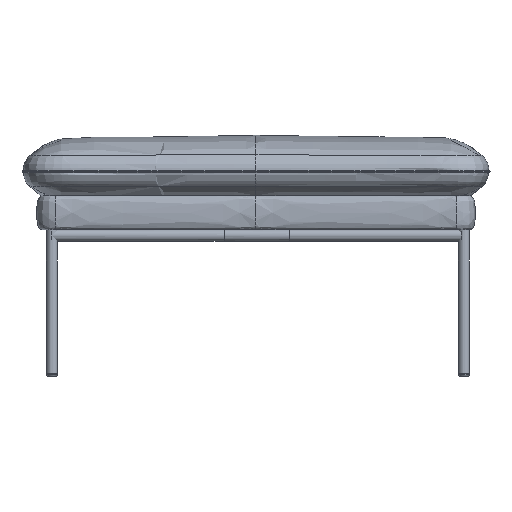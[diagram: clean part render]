
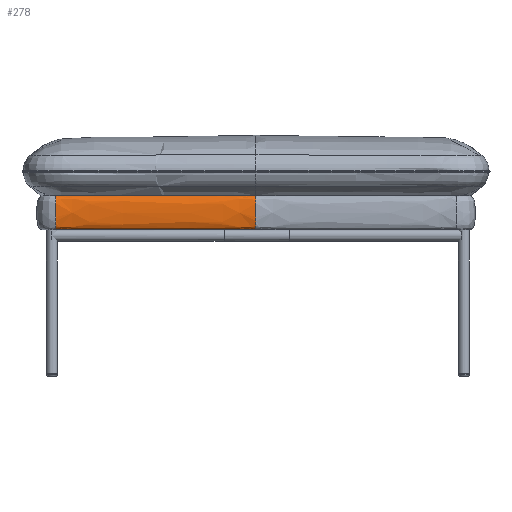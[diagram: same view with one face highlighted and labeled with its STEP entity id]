
A CAD part, front view. The second image highlights one B-rep face of the part: STEP entity #278.
In plain terms, the highlighted free-form (B-spline) face has degree [3, 3] with [4, 5] control points.
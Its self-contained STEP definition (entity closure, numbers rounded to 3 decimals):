
#278=ADVANCED_FACE('',(#406),#1588,.T.);
#406=FACE_OUTER_BOUND('',#534,.T.);
#534=EDGE_LOOP('',(#673,#674,#675,#676));
#673=ORIENTED_EDGE('',*,*,#1122,.F.);
#674=ORIENTED_EDGE('',*,*,#1112,.F.);
#675=ORIENTED_EDGE('',*,*,#1116,.F.);
#676=ORIENTED_EDGE('',*,*,#1123,.T.);
#1112=EDGE_CURVE('',#1374,#1375,#1633,.T.);
#1116=EDGE_CURVE('',#1378,#1374,#1637,.T.);
#1122=EDGE_CURVE('',#1375,#1380,#1643,.T.);
#1123=EDGE_CURVE('',#1378,#1380,#1644,.T.);
#1374=VERTEX_POINT('',#2472);
#1375=VERTEX_POINT('',#2473);
#1378=VERTEX_POINT('',#2476);
#1380=VERTEX_POINT('',#2478);
#1588=B_SPLINE_SURFACE_WITH_KNOTS('',3,3,((#2200,#2201,#2202,#2203,#2204),
(#2205,#2206,#2207,#2208,#2209),(#2210,#2211,#2212,#2213,#2214),(#2215,
#2216,#2217,#2218,#2219)),.UNSPECIFIED.,.F.,.F.,.F.,(4,4),(4,1,4),(0.,
1742.),(0.,40.,80.),.UNSPECIFIED.);
#1633=B_SPLINE_CURVE_WITH_KNOTS('',3,(#2504,#2505,#2506,#2507,#2508),
 .UNSPECIFIED.,.F.,.F.,(4,1,4),(0.,40.,80.),.UNSPECIFIED.);
#1637=B_SPLINE_CURVE_WITH_KNOTS('',3,(#2523,#2524,#2525,#2526),
 .UNSPECIFIED.,.F.,.F.,(4,4),(0.,354.664),.UNSPECIFIED.);
#1643=B_SPLINE_CURVE_WITH_KNOTS('',3,(#2541,#2542,#2543,#2544),
 .UNSPECIFIED.,.F.,.F.,(4,4),(0.,354.664),.UNSPECIFIED.);
#1644=B_SPLINE_CURVE_WITH_KNOTS('',3,(#2545,#2546,#2547,#2548,#2549),
 .UNSPECIFIED.,.F.,.F.,(4,1,4),(0.,41.222,82.443),
 .UNSPECIFIED.);
#2200=CARTESIAN_POINT('',(7274.917,-713.07,260.));
#2201=CARTESIAN_POINT('',(7274.917,-724.292,260.));
#2202=CARTESIAN_POINT('',(7274.917,-724.292,290.));
#2203=CARTESIAN_POINT('',(7274.917,-724.292,320.));
#2204=CARTESIAN_POINT('',(7274.917,-713.07,320.));
#2205=CARTESIAN_POINT('',(7926.526,-713.07,260.));
#2206=CARTESIAN_POINT('',(7926.526,-724.292,260.));
#2207=CARTESIAN_POINT('',(7926.526,-724.292,290.));
#2208=CARTESIAN_POINT('',(7926.526,-724.292,320.));
#2209=CARTESIAN_POINT('',(7926.526,-713.07,320.));
#2210=CARTESIAN_POINT('',(8578.134,-713.07,260.));
#2211=CARTESIAN_POINT('',(8578.134,-724.292,260.));
#2212=CARTESIAN_POINT('',(8578.134,-724.292,290.));
#2213=CARTESIAN_POINT('',(8578.134,-724.292,320.));
#2214=CARTESIAN_POINT('',(8578.134,-713.07,320.));
#2215=CARTESIAN_POINT('',(9229.743,-713.07,260.));
#2216=CARTESIAN_POINT('',(9229.743,-724.292,260.));
#2217=CARTESIAN_POINT('',(9229.743,-724.292,290.));
#2218=CARTESIAN_POINT('',(9229.743,-724.292,320.));
#2219=CARTESIAN_POINT('',(9229.743,-713.07,320.));
#2472=CARTESIAN_POINT('',(7274.917,-713.07,260.));
#2473=CARTESIAN_POINT('',(7274.917,-713.07,320.));
#2476=CARTESIAN_POINT('',(7629.581,-713.07,260.));
#2478=CARTESIAN_POINT('',(7629.581,-713.07,320.));
#2504=CARTESIAN_POINT('',(7274.917,-713.07,260.));
#2505=CARTESIAN_POINT('',(7274.917,-724.292,260.));
#2506=CARTESIAN_POINT('',(7274.917,-724.292,290.));
#2507=CARTESIAN_POINT('',(7274.917,-724.292,320.));
#2508=CARTESIAN_POINT('',(7274.917,-713.07,320.));
#2523=CARTESIAN_POINT('',(7629.581,-713.07,260.));
#2524=CARTESIAN_POINT('',(7511.36,-713.07,260.));
#2525=CARTESIAN_POINT('',(7393.138,-713.07,260.));
#2526=CARTESIAN_POINT('',(7274.917,-713.07,260.));
#2541=CARTESIAN_POINT('',(7274.917,-713.07,320.));
#2542=CARTESIAN_POINT('',(7393.138,-713.07,320.));
#2543=CARTESIAN_POINT('',(7511.36,-713.07,320.));
#2544=CARTESIAN_POINT('',(7629.581,-713.07,320.));
#2545=CARTESIAN_POINT('',(7629.581,-713.07,260.));
#2546=CARTESIAN_POINT('',(7629.581,-724.292,260.));
#2547=CARTESIAN_POINT('',(7629.581,-724.292,290.));
#2548=CARTESIAN_POINT('',(7629.581,-724.292,320.));
#2549=CARTESIAN_POINT('',(7629.581,-713.07,320.));
